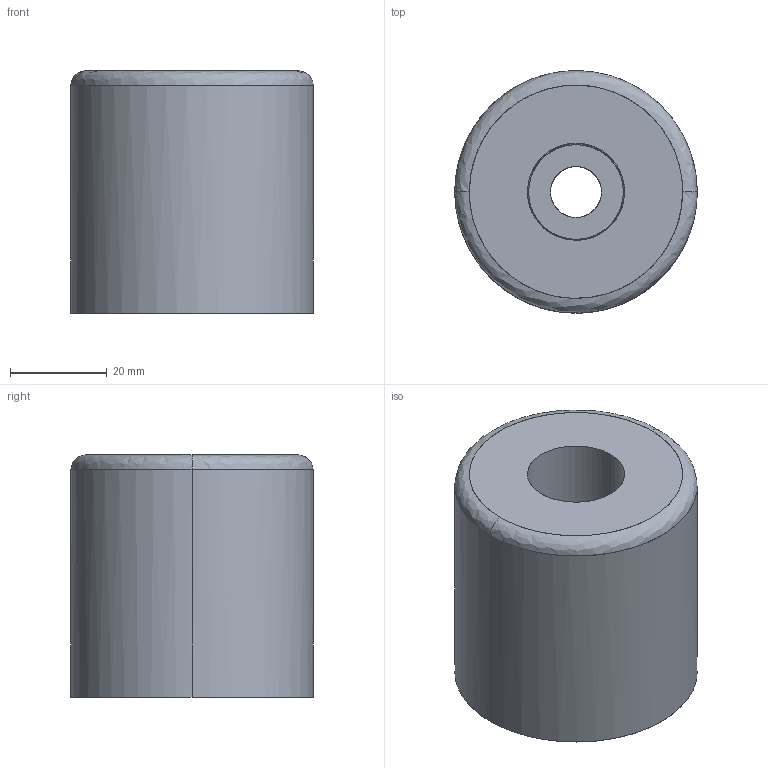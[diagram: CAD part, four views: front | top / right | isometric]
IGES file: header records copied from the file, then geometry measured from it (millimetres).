
Global section: file name: E:\UnigraphicsGraphicData\MISUMI_PRESS-PARTS\IGES\3d_durp50_06990_r00.igs; native system: NX V5.0; preprocessor: UGS NX IGES V5.0; author: MISUMI; date: 20110105.160602; units: millimetre
Bounding box: 50 x 50 x 50 mm (x, y, z)
Surface area: 16032 mm2 (no closed solid volume)
Topology: 0 solids, 0 shells, 20 faces, 168 edges, 168 vertices
Faces by surface type: bspline 20
